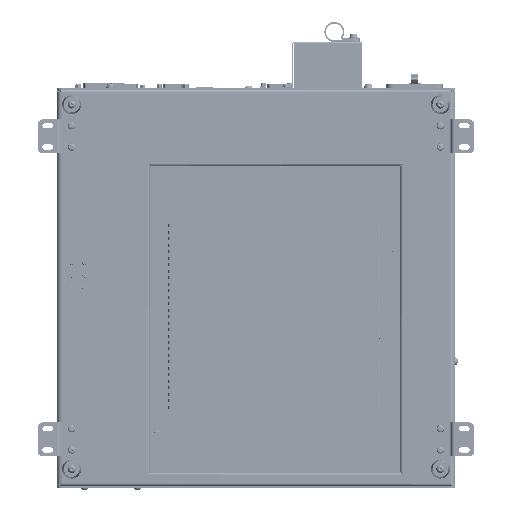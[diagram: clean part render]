
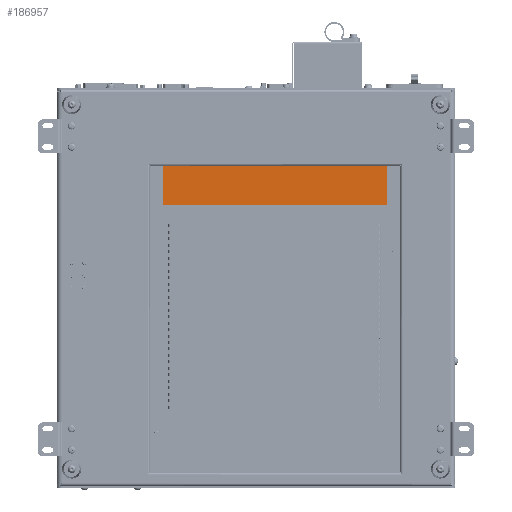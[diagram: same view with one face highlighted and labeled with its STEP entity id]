
A CAD part, front view. The second image highlights one B-rep face of the part: STEP entity #186957.
In plain terms, the highlighted planar face has unit normal (0, -1, 0) as drawn and (0, 0, -1) by its records, which use the part's own axes.
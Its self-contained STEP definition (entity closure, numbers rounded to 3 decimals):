
#13737 = VERTEX_POINT ( 'NONE', #136788 ) ;
#20374 = CIRCLE ( 'NONE', #37136, 2.5 ) ;
#23238 = DIRECTION ( 'NONE',  ( 0., 0., -1. ) ) ;
#27329 = EDGE_CURVE ( 'NONE', #246135, #142256, #310519, .T. ) ;
#28246 = AXIS2_PLACEMENT_3D ( 'NONE', #455177, #23238, #379684 ) ;
#32377 = ORIENTED_EDGE ( 'NONE', *, *, #401228, .T. ) ;
#37136 = AXIS2_PLACEMENT_3D ( 'NONE', #46165, #321943, #480636 ) ;
#46165 = CARTESIAN_POINT ( 'NONE',  ( 0., 112., 0. ) ) ;
#56630 = DIRECTION ( 'NONE',  ( 0., 0., 1. ) ) ;
#58501 = CARTESIAN_POINT ( 'NONE',  ( 21.5, -115.5, 0. ) ) ;
#65330 = CIRCLE ( 'NONE', #173009, 2.5 ) ;
#69311 = DIRECTION ( 'NONE',  ( 0., 0., -1. ) ) ;
#73488 = EDGE_CURVE ( 'NONE', #246135, #321353, #260011, .T. ) ;
#77169 = CARTESIAN_POINT ( 'NONE',  ( 0., -112., 0. ) ) ;
#79224 = ORIENTED_EDGE ( 'NONE', *, *, #463657, .T. ) ;
#88675 = CARTESIAN_POINT ( 'NONE',  ( 0., -112., 0. ) ) ;
#99571 = EDGE_CURVE ( 'NONE', #286638, #142256, #338104, .T. ) ;
#110129 = DIRECTION ( 'NONE',  ( 1., 0., 0. ) ) ;
#111398 = AXIS2_PLACEMENT_3D ( 'NONE', #452102, #56630, #137222 ) ;
#123380 = EDGE_LOOP ( 'NONE', ( #250028, #512874, #483915, #495467, #514751, #487886, #223526, #197140 ) ) ;
#124510 = CARTESIAN_POINT ( 'NONE',  ( -19.5, 115.5, 0. ) ) ;
#127087 = DIRECTION ( 'NONE',  ( 0., 0., -1. ) ) ;
#129823 = AXIS2_PLACEMENT_3D ( 'NONE', #497381, #455755, #211340 ) ;
#134633 = FACE_BOUND ( 'NONE', #475196, .T. ) ;
#136788 = CARTESIAN_POINT ( 'NONE',  ( 19.5, -117.5, 0. ) ) ;
#137222 = DIRECTION ( 'NONE',  ( 1., 0., 0. ) ) ;
#142256 = VERTEX_POINT ( 'NONE', #500851 ) ;
#143904 = AXIS2_PLACEMENT_3D ( 'NONE', #424735, #302547, #263474 ) ;
#151727 = VECTOR ( 'NONE', #439562, 1000. ) ;
#159890 = EDGE_CURVE ( 'NONE', #339372, #321353, #440712, .T. ) ;
#160332 = DIRECTION ( 'NONE',  ( 1., 0., 0. ) ) ;
#161184 = VERTEX_POINT ( 'NONE', #387084 ) ;
#162283 = EDGE_CURVE ( 'NONE', #339372, #293646, #280886, .T. ) ;
#173009 = AXIS2_PLACEMENT_3D ( 'NONE', #88675, #328045, #281312 ) ;
#174075 = CARTESIAN_POINT ( 'NONE',  ( -2.5, -112., 0. ) ) ;
#179420 = CARTESIAN_POINT ( 'NONE',  ( -21.5, 117.5, 0. ) ) ;
#186957 = ADVANCED_FACE ( 'NONE', ( #222995, #134633, #374008 ), #420739, .F. ) ;
#188235 = LINE ( 'NONE', #193351, #328530 ) ;
#191308 = ORIENTED_EDGE ( 'NONE', *, *, #276552, .T. ) ;
#193351 = CARTESIAN_POINT ( 'NONE',  ( -21.5, -117.5, 0. ) ) ;
#193850 = ORIENTED_EDGE ( 'NONE', *, *, #331448, .T. ) ;
#197140 = ORIENTED_EDGE ( 'NONE', *, *, #27329, .T. ) ;
#211340 = DIRECTION ( 'NONE',  ( 1., 0., 0. ) ) ;
#216369 = AXIS2_PLACEMENT_3D ( 'NONE', #124510, #127087, #495730 ) ;
#218625 = CIRCLE ( 'NONE', #143904, 2. ) ;
#222995 = FACE_BOUND ( 'NONE', #491442, .T. ) ;
#223526 = ORIENTED_EDGE ( 'NONE', *, *, #73488, .F. ) ;
#224694 = VECTOR ( 'NONE', #468066, 1000. ) ;
#229780 = CIRCLE ( 'NONE', #129823, 2.5 ) ;
#233300 = DIRECTION ( 'NONE',  ( 0., 0., 1. ) ) ;
#237915 = CARTESIAN_POINT ( 'NONE',  ( -19.5, 117.5, 0. ) ) ;
#246135 = VERTEX_POINT ( 'NONE', #297134 ) ;
#250028 = ORIENTED_EDGE ( 'NONE', *, *, #99571, .F. ) ;
#260011 = LINE ( 'NONE', #179420, #224694 ) ;
#263474 = DIRECTION ( 'NONE',  ( 1., 0., 0. ) ) ;
#264705 = CARTESIAN_POINT ( 'NONE',  ( -2.5, 112., 0. ) ) ;
#276552 = EDGE_CURVE ( 'NONE', #471351, #354656, #20374, .T. ) ;
#280886 = LINE ( 'NONE', #512592, #151727 ) ;
#281312 = DIRECTION ( 'NONE',  ( 1., 0., 0. ) ) ;
#286638 = VERTEX_POINT ( 'NONE', #58501 ) ;
#288252 = CARTESIAN_POINT ( 'NONE',  ( -21.5, 115.5, 0. ) ) ;
#288937 = VECTOR ( 'NONE', #340648, 1000. ) ;
#293646 = VERTEX_POINT ( 'NONE', #497276 ) ;
#297134 = CARTESIAN_POINT ( 'NONE',  ( 19.5, 117.5, 0. ) ) ;
#297577 = AXIS2_PLACEMENT_3D ( 'NONE', #77169, #233300, #160332 ) ;
#300929 = DIRECTION ( 'NONE',  ( 1., 0., 0. ) ) ;
#302547 = DIRECTION ( 'NONE',  ( 0., 0., -1. ) ) ;
#310519 = CIRCLE ( 'NONE', #28246, 2. ) ;
#321353 = VERTEX_POINT ( 'NONE', #237915 ) ;
#321943 = DIRECTION ( 'NONE',  ( 0., 0., 1. ) ) ;
#325674 = CARTESIAN_POINT ( 'NONE',  ( -19.5, -117.5, 0. ) ) ;
#328045 = DIRECTION ( 'NONE',  ( 0., 0., 1. ) ) ;
#328530 = VECTOR ( 'NONE', #110129, 1000. ) ;
#330403 = CARTESIAN_POINT ( 'NONE',  ( 21.5, 117.5, 0. ) ) ;
#331448 = EDGE_CURVE ( 'NONE', #161184, #397392, #355565, .T. ) ;
#338018 = EDGE_CURVE ( 'NONE', #286638, #13737, #358819, .T. ) ;
#338104 = LINE ( 'NONE', #330403, #288937 ) ;
#339372 = VERTEX_POINT ( 'NONE', #288252 ) ;
#340648 = DIRECTION ( 'NONE',  ( 0., 1., 0. ) ) ;
#347688 = CARTESIAN_POINT ( 'NONE',  ( 19.5, -115.5, 0. ) ) ;
#354656 = VERTEX_POINT ( 'NONE', #392786 ) ;
#355565 = CIRCLE ( 'NONE', #297577, 2.5 ) ;
#358819 = CIRCLE ( 'NONE', #425228, 2. ) ;
#374008 = FACE_OUTER_BOUND ( 'NONE', #123380, .T. ) ;
#379684 = DIRECTION ( 'NONE',  ( 1., 0., 0. ) ) ;
#387084 = CARTESIAN_POINT ( 'NONE',  ( 2.5, -112., 0. ) ) ;
#392786 = CARTESIAN_POINT ( 'NONE',  ( 2.5, 112., 0. ) ) ;
#397392 = VERTEX_POINT ( 'NONE', #174075 ) ;
#401228 = EDGE_CURVE ( 'NONE', #397392, #161184, #65330, .T. ) ;
#418695 = EDGE_CURVE ( 'NONE', #429575, #293646, #218625, .T. ) ;
#420739 = PLANE ( 'NONE',  #111398 ) ;
#424735 = CARTESIAN_POINT ( 'NONE',  ( -19.5, -115.5, 0. ) ) ;
#425228 = AXIS2_PLACEMENT_3D ( 'NONE', #347688, #69311, #300929 ) ;
#429575 = VERTEX_POINT ( 'NONE', #325674 ) ;
#439562 = DIRECTION ( 'NONE',  ( 0., -1., 0. ) ) ;
#440712 = CIRCLE ( 'NONE', #216369, 2. ) ;
#452102 = CARTESIAN_POINT ( 'NONE',  ( 0., 0., 0. ) ) ;
#455177 = CARTESIAN_POINT ( 'NONE',  ( 19.5, 115.5, 0. ) ) ;
#455755 = DIRECTION ( 'NONE',  ( 0., 0., 1. ) ) ;
#463657 = EDGE_CURVE ( 'NONE', #354656, #471351, #229780, .T. ) ;
#468066 = DIRECTION ( 'NONE',  ( -1., 0., 0. ) ) ;
#471351 = VERTEX_POINT ( 'NONE', #264705 ) ;
#475196 = EDGE_LOOP ( 'NONE', ( #191308, #79224 ) ) ;
#480636 = DIRECTION ( 'NONE',  ( 1., 0., 0. ) ) ;
#482634 = EDGE_CURVE ( 'NONE', #429575, #13737, #188235, .T. ) ;
#483915 = ORIENTED_EDGE ( 'NONE', *, *, #482634, .F. ) ;
#487886 = ORIENTED_EDGE ( 'NONE', *, *, #159890, .T. ) ;
#491442 = EDGE_LOOP ( 'NONE', ( #32377, #193850 ) ) ;
#495467 = ORIENTED_EDGE ( 'NONE', *, *, #418695, .T. ) ;
#495730 = DIRECTION ( 'NONE',  ( 1., 0., 0. ) ) ;
#497276 = CARTESIAN_POINT ( 'NONE',  ( -21.5, -115.5, 0. ) ) ;
#497381 = CARTESIAN_POINT ( 'NONE',  ( 0., 112., 0. ) ) ;
#500851 = CARTESIAN_POINT ( 'NONE',  ( 21.5, 115.5, 0. ) ) ;
#512592 = CARTESIAN_POINT ( 'NONE',  ( -21.5, 117.5, 0. ) ) ;
#512874 = ORIENTED_EDGE ( 'NONE', *, *, #338018, .T. ) ;
#514751 = ORIENTED_EDGE ( 'NONE', *, *, #162283, .F. ) ;
